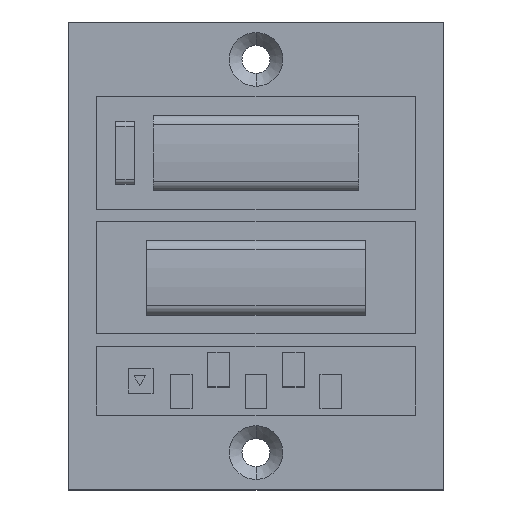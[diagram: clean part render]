
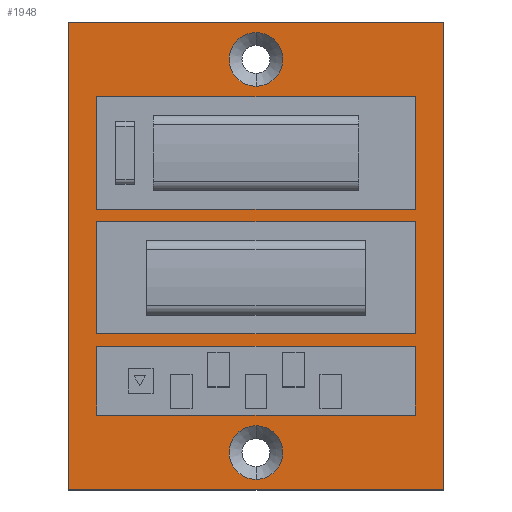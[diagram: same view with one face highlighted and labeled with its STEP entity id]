
A CAD part, top view. The second image highlights one B-rep face of the part: STEP entity #1948.
In plain terms, the highlighted planar face has unit normal (0, 0, 1).
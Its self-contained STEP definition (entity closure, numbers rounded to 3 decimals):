
#89=DIRECTION('',(0.,-1.,0.));
#90=VECTOR('',#89,75.);
#91=CARTESIAN_POINT('',(-30.,37.5,3.));
#92=LINE('',#91,#90);
#93=DIRECTION('',(-1.,0.,0.));
#94=VECTOR('',#93,60.);
#95=CARTESIAN_POINT('',(30.,37.5,3.));
#96=LINE('',#95,#94);
#97=DIRECTION('',(0.,1.,0.));
#98=VECTOR('',#97,75.);
#99=CARTESIAN_POINT('',(30.,-37.5,3.));
#100=LINE('',#99,#98);
#101=DIRECTION('',(1.,0.,0.));
#102=VECTOR('',#101,60.);
#103=CARTESIAN_POINT('',(-30.,-37.5,3.));
#104=LINE('',#103,#102);
#105=DIRECTION('',(1.,0.,0.));
#106=VECTOR('',#105,51.);
#107=CARTESIAN_POINT('',(-25.5,7.5,3.));
#108=LINE('',#107,#106);
#109=DIRECTION('',(0.,1.,0.));
#110=VECTOR('',#109,18.);
#111=CARTESIAN_POINT('',(25.5,7.5,3.));
#112=LINE('',#111,#110);
#113=DIRECTION('',(-1.,0.,0.));
#114=VECTOR('',#113,51.);
#115=CARTESIAN_POINT('',(25.5,25.5,3.));
#116=LINE('',#115,#114);
#117=DIRECTION('',(0.,-1.,0.));
#118=VECTOR('',#117,18.);
#119=CARTESIAN_POINT('',(-25.5,25.5,3.));
#120=LINE('',#119,#118);
#121=DIRECTION('',(0.,-1.,0.));
#122=VECTOR('',#121,18.);
#123=CARTESIAN_POINT('',(-25.5,5.5,3.));
#124=LINE('',#123,#122);
#125=DIRECTION('',(1.,0.,0.));
#126=VECTOR('',#125,51.);
#127=CARTESIAN_POINT('',(-25.5,-12.5,3.));
#128=LINE('',#127,#126);
#129=DIRECTION('',(0.,1.,0.));
#130=VECTOR('',#129,18.);
#131=CARTESIAN_POINT('',(25.5,-12.5,3.));
#132=LINE('',#131,#130);
#133=DIRECTION('',(-1.,0.,0.));
#134=VECTOR('',#133,51.);
#135=CARTESIAN_POINT('',(25.5,5.5,3.));
#136=LINE('',#135,#134);
#137=DIRECTION('',(0.,-1.,0.));
#138=VECTOR('',#137,11.);
#139=CARTESIAN_POINT('',(-25.5,-14.5,3.));
#140=LINE('',#139,#138);
#141=DIRECTION('',(1.,0.,0.));
#142=VECTOR('',#141,51.);
#143=CARTESIAN_POINT('',(-25.5,-25.5,3.));
#144=LINE('',#143,#142);
#145=DIRECTION('',(0.,1.,0.));
#146=VECTOR('',#145,11.);
#147=CARTESIAN_POINT('',(25.5,-25.5,3.));
#148=LINE('',#147,#146);
#149=DIRECTION('',(-1.,0.,0.));
#150=VECTOR('',#149,51.);
#151=CARTESIAN_POINT('',(25.5,-14.5,3.));
#152=LINE('',#151,#150);
#153=CARTESIAN_POINT('',(0.,31.5,3.));
#154=DIRECTION('',(0.,0.,1.));
#155=DIRECTION('',(0.,1.,0.));
#156=AXIS2_PLACEMENT_3D('',#153,#154,#155);
#158=CARTESIAN_POINT('',(0.,31.5,3.));
#159=DIRECTION('',(0.,0.,1.));
#160=DIRECTION('',(0.,-1.,0.));
#161=AXIS2_PLACEMENT_3D('',#158,#159,#160);
#163=CARTESIAN_POINT('',(0.,-31.5,3.));
#164=DIRECTION('',(0.,0.,-1.));
#165=DIRECTION('',(0.,-1.,0.));
#166=AXIS2_PLACEMENT_3D('',#163,#164,#165);
#168=CARTESIAN_POINT('',(0.,-31.5,3.));
#169=DIRECTION('',(0.,0.,-1.));
#170=DIRECTION('',(0.,1.,0.));
#171=AXIS2_PLACEMENT_3D('',#168,#169,#170);
#1389=CARTESIAN_POINT('',(-30.,37.5,3.));
#1390=CARTESIAN_POINT('',(-30.,-37.5,3.));
#1391=VERTEX_POINT('',#1389);
#1392=VERTEX_POINT('',#1390);
#1393=CARTESIAN_POINT('',(30.,-37.5,3.));
#1394=VERTEX_POINT('',#1393);
#1395=CARTESIAN_POINT('',(30.,37.5,3.));
#1396=VERTEX_POINT('',#1395);
#1461=CARTESIAN_POINT('',(-25.5,7.5,3.));
#1462=CARTESIAN_POINT('',(25.5,7.5,3.));
#1463=VERTEX_POINT('',#1461);
#1464=VERTEX_POINT('',#1462);
#1465=CARTESIAN_POINT('',(25.5,25.5,3.));
#1466=VERTEX_POINT('',#1465);
#1467=CARTESIAN_POINT('',(-25.5,25.5,3.));
#1468=VERTEX_POINT('',#1467);
#1577=CARTESIAN_POINT('',(0.,35.8,3.));
#1578=CARTESIAN_POINT('',(0.,27.2,3.));
#1579=VERTEX_POINT('',#1577);
#1580=VERTEX_POINT('',#1578);
#1673=CARTESIAN_POINT('',(-25.5,5.5,3.));
#1674=CARTESIAN_POINT('',(-25.5,-12.5,3.));
#1675=VERTEX_POINT('',#1673);
#1676=VERTEX_POINT('',#1674);
#1677=CARTESIAN_POINT('',(25.5,-12.5,3.));
#1678=VERTEX_POINT('',#1677);
#1679=CARTESIAN_POINT('',(25.5,5.5,3.));
#1680=VERTEX_POINT('',#1679);
#1689=CARTESIAN_POINT('',(-25.5,-14.5,3.));
#1690=CARTESIAN_POINT('',(-25.5,-25.5,3.));
#1691=VERTEX_POINT('',#1689);
#1692=VERTEX_POINT('',#1690);
#1693=CARTESIAN_POINT('',(25.5,-25.5,3.));
#1694=VERTEX_POINT('',#1693);
#1695=CARTESIAN_POINT('',(25.5,-14.5,3.));
#1696=VERTEX_POINT('',#1695);
#1763=CARTESIAN_POINT('',(0.,-35.8,3.));
#1764=VERTEX_POINT('',#1763);
#1767=CARTESIAN_POINT('',(0.,-27.2,3.));
#1768=VERTEX_POINT('',#1767);
#1895=CARTESIAN_POINT('',(0.,0.,3.));
#1896=DIRECTION('',(0.,0.,1.));
#1897=DIRECTION('',(1.,0.,0.));
#1898=AXIS2_PLACEMENT_3D('',#1895,#1896,#1897);
#1899=PLANE('',#1898);
#1900=ORIENTED_EDGE('',*,*,#1847,.F.);
#1901=ORIENTED_EDGE('',*,*,#1862,.F.);
#1902=ORIENTED_EDGE('',*,*,#1876,.F.);
#1903=ORIENTED_EDGE('',*,*,#1889,.F.);
#1904=EDGE_LOOP('',(#1900,#1901,#1902,#1903));
#1905=FACE_OUTER_BOUND('',#1904,.F.);
#1907=ORIENTED_EDGE('',*,*,#1906,.T.);
#1909=ORIENTED_EDGE('',*,*,#1908,.T.);
#1911=ORIENTED_EDGE('',*,*,#1910,.T.);
#1913=ORIENTED_EDGE('',*,*,#1912,.T.);
#1914=EDGE_LOOP('',(#1907,#1909,#1911,#1913));
#1915=FACE_BOUND('',#1914,.F.);
#1917=ORIENTED_EDGE('',*,*,#1916,.T.);
#1919=ORIENTED_EDGE('',*,*,#1918,.T.);
#1921=ORIENTED_EDGE('',*,*,#1920,.T.);
#1923=ORIENTED_EDGE('',*,*,#1922,.T.);
#1924=EDGE_LOOP('',(#1917,#1919,#1921,#1923));
#1925=FACE_BOUND('',#1924,.F.);
#1927=ORIENTED_EDGE('',*,*,#1926,.T.);
#1929=ORIENTED_EDGE('',*,*,#1928,.T.);
#1931=ORIENTED_EDGE('',*,*,#1930,.T.);
#1933=ORIENTED_EDGE('',*,*,#1932,.T.);
#1934=EDGE_LOOP('',(#1927,#1929,#1931,#1933));
#1935=FACE_BOUND('',#1934,.F.);
#1937=ORIENTED_EDGE('',*,*,#1936,.T.);
#1939=ORIENTED_EDGE('',*,*,#1938,.T.);
#1940=EDGE_LOOP('',(#1937,#1939));
#1941=FACE_BOUND('',#1940,.F.);
#1943=ORIENTED_EDGE('',*,*,#1942,.F.);
#1945=ORIENTED_EDGE('',*,*,#1944,.F.);
#1946=EDGE_LOOP('',(#1943,#1945));
#1947=FACE_BOUND('',#1946,.F.);
#1948=ADVANCED_FACE('',(#1905,#1915,#1925,#1935,#1941,#1947),#1899,.T.);
#157=CIRCLE('',#156,4.3);
#162=CIRCLE('',#161,4.3);
#167=CIRCLE('',#166,4.3);
#172=CIRCLE('',#171,4.3);
#1847=EDGE_CURVE('',#1391,#1392,#92,.T.);
#1862=EDGE_CURVE('',#1396,#1391,#96,.T.);
#1876=EDGE_CURVE('',#1394,#1396,#100,.T.);
#1889=EDGE_CURVE('',#1392,#1394,#104,.T.);
#1906=EDGE_CURVE('',#1463,#1464,#108,.T.);
#1908=EDGE_CURVE('',#1464,#1466,#112,.T.);
#1910=EDGE_CURVE('',#1466,#1468,#116,.T.);
#1912=EDGE_CURVE('',#1468,#1463,#120,.T.);
#1916=EDGE_CURVE('',#1675,#1676,#124,.T.);
#1918=EDGE_CURVE('',#1676,#1678,#128,.T.);
#1920=EDGE_CURVE('',#1678,#1680,#132,.T.);
#1922=EDGE_CURVE('',#1680,#1675,#136,.T.);
#1926=EDGE_CURVE('',#1691,#1692,#140,.T.);
#1928=EDGE_CURVE('',#1692,#1694,#144,.T.);
#1930=EDGE_CURVE('',#1694,#1696,#148,.T.);
#1932=EDGE_CURVE('',#1696,#1691,#152,.T.);
#1936=EDGE_CURVE('',#1579,#1580,#157,.T.);
#1938=EDGE_CURVE('',#1580,#1579,#162,.T.);
#1942=EDGE_CURVE('',#1764,#1768,#167,.T.);
#1944=EDGE_CURVE('',#1768,#1764,#172,.T.);
